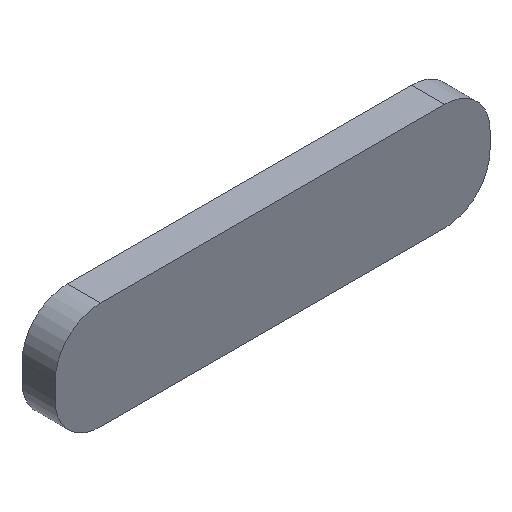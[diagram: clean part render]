
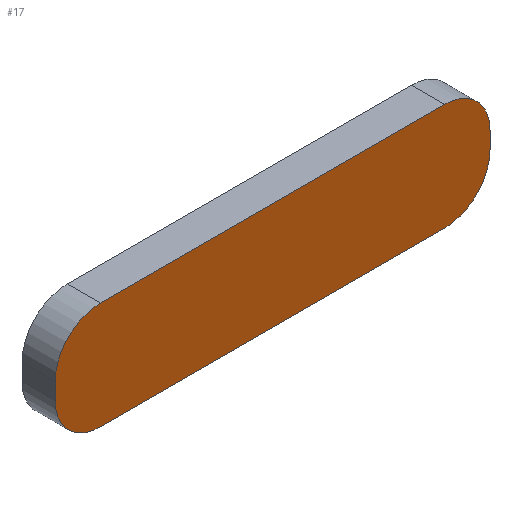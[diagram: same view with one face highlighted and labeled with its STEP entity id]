
A CAD part, isometric view. The second image highlights one B-rep face of the part: STEP entity #17.
In plain terms, the highlighted planar face has unit normal (0, -1, 0).
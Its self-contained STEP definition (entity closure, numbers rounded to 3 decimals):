
#17 = ADVANCED_FACE('',(#18),#32,.F.);
#18 = FACE_BOUND('',#19,.F.);
#19 = EDGE_LOOP('',(#20,#55,#84,#112,#145,#173,#202,#230));
#20 = ORIENTED_EDGE('',*,*,#21,.F.);
#21 = EDGE_CURVE('',#22,#24,#26,.T.);
#22 = VERTEX_POINT('',#23);
#23 = CARTESIAN_POINT('',(13.4,-68.2,0.45));
#24 = VERTEX_POINT('',#25);
#25 = CARTESIAN_POINT('',(13.4,-68.2,1.55));
#26 = SURFACE_CURVE('',#27,(#31,#43),.PCURVE_S1.);
#27 = LINE('',#28,#29);
#28 = CARTESIAN_POINT('',(13.4,-68.2,-2.55));
#29 = VECTOR('',#30,1.);
#30 = DIRECTION('',(0.,0.,1.));
#31 = PCURVE('',#32,#37);
#32 = PLANE('',#33);
#33 = AXIS2_PLACEMENT_3D('',#34,#35,#36);
#34 = CARTESIAN_POINT('',(13.4,-68.2,-2.55));
#35 = DIRECTION('',(0.,1.,0.));
#36 = DIRECTION('',(0.,0.,1.));
#37 = DEFINITIONAL_REPRESENTATION('',(#38),#42);
#38 = LINE('',#39,#40);
#39 = CARTESIAN_POINT('',(0.,0.));
#40 = VECTOR('',#41,1.);
#41 = DIRECTION('',(1.,0.));
#42 = ( GEOMETRIC_REPRESENTATION_CONTEXT(2) 
PARAMETRIC_REPRESENTATION_CONTEXT() REPRESENTATION_CONTEXT('2D SPACE',''
  ) );
#43 = PCURVE('',#44,#49);
#44 = PLANE('',#45);
#45 = AXIS2_PLACEMENT_3D('',#46,#47,#48);
#46 = CARTESIAN_POINT('',(13.4,-68.2,-2.55));
#47 = DIRECTION('',(-1.,0.,0.));
#48 = DIRECTION('',(0.,0.,1.));
#49 = DEFINITIONAL_REPRESENTATION('',(#50),#54);
#50 = LINE('',#51,#52);
#51 = CARTESIAN_POINT('',(0.,0.));
#52 = VECTOR('',#53,1.);
#53 = DIRECTION('',(1.,0.));
#54 = ( GEOMETRIC_REPRESENTATION_CONTEXT(2) 
PARAMETRIC_REPRESENTATION_CONTEXT() REPRESENTATION_CONTEXT('2D SPACE',''
  ) );
#55 = ORIENTED_EDGE('',*,*,#56,.T.);
#56 = EDGE_CURVE('',#22,#57,#59,.T.);
#57 = VERTEX_POINT('',#58);
#58 = CARTESIAN_POINT('',(10.4,-68.2,-2.55));
#59 = SURFACE_CURVE('',#60,(#65,#72),.PCURVE_S1.);
#60 = CIRCLE('',#61,3.);
#61 = AXIS2_PLACEMENT_3D('',#62,#63,#64);
#62 = CARTESIAN_POINT('',(10.4,-68.2,0.45));
#63 = DIRECTION('',(0.,1.,-0.));
#64 = DIRECTION('',(0.,0.,1.));
#65 = PCURVE('',#32,#66);
#66 = DEFINITIONAL_REPRESENTATION('',(#67),#71);
#67 = CIRCLE('',#68,3.);
#68 = AXIS2_PLACEMENT_2D('',#69,#70);
#69 = CARTESIAN_POINT('',(3.,-3.));
#70 = DIRECTION('',(1.,0.));
#71 = ( GEOMETRIC_REPRESENTATION_CONTEXT(2) 
PARAMETRIC_REPRESENTATION_CONTEXT() REPRESENTATION_CONTEXT('2D SPACE',''
  ) );
#72 = PCURVE('',#73,#78);
#73 = CYLINDRICAL_SURFACE('',#74,3.);
#74 = AXIS2_PLACEMENT_3D('',#75,#76,#77);
#75 = CARTESIAN_POINT('',(10.4,-68.2,0.45));
#76 = DIRECTION('',(0.,1.,0.));
#77 = DIRECTION('',(1.,0.,0.));
#78 = DEFINITIONAL_REPRESENTATION('',(#79),#83);
#79 = LINE('',#80,#81);
#80 = CARTESIAN_POINT('',(-1.571,0.));
#81 = VECTOR('',#82,1.);
#82 = DIRECTION('',(1.,0.));
#83 = ( GEOMETRIC_REPRESENTATION_CONTEXT(2) 
PARAMETRIC_REPRESENTATION_CONTEXT() REPRESENTATION_CONTEXT('2D SPACE',''
  ) );
#84 = ORIENTED_EDGE('',*,*,#85,.T.);
#85 = EDGE_CURVE('',#57,#86,#88,.T.);
#86 = VERTEX_POINT('',#87);
#87 = CARTESIAN_POINT('',(-12.4,-68.2,-2.55));
#88 = SURFACE_CURVE('',#89,(#93,#100),.PCURVE_S1.);
#89 = LINE('',#90,#91);
#90 = CARTESIAN_POINT('',(13.4,-68.2,-2.55));
#91 = VECTOR('',#92,1.);
#92 = DIRECTION('',(-1.,0.,0.));
#93 = PCURVE('',#32,#94);
#94 = DEFINITIONAL_REPRESENTATION('',(#95),#99);
#95 = LINE('',#96,#97);
#96 = CARTESIAN_POINT('',(0.,0.));
#97 = VECTOR('',#98,1.);
#98 = DIRECTION('',(0.,-1.));
#99 = ( GEOMETRIC_REPRESENTATION_CONTEXT(2) 
PARAMETRIC_REPRESENTATION_CONTEXT() REPRESENTATION_CONTEXT('2D SPACE',''
  ) );
#100 = PCURVE('',#101,#106);
#101 = PLANE('',#102);
#102 = AXIS2_PLACEMENT_3D('',#103,#104,#105);
#103 = CARTESIAN_POINT('',(13.4,-68.2,-2.55));
#104 = DIRECTION('',(0.,0.,1.));
#105 = DIRECTION('',(0.,1.,0.));
#106 = DEFINITIONAL_REPRESENTATION('',(#107),#111);
#107 = LINE('',#108,#109);
#108 = CARTESIAN_POINT('',(0.,0.));
#109 = VECTOR('',#110,1.);
#110 = DIRECTION('',(0.,1.));
#111 = ( GEOMETRIC_REPRESENTATION_CONTEXT(2) 
PARAMETRIC_REPRESENTATION_CONTEXT() REPRESENTATION_CONTEXT('2D SPACE',''
  ) );
#112 = ORIENTED_EDGE('',*,*,#113,.F.);
#113 = EDGE_CURVE('',#114,#86,#116,.T.);
#114 = VERTEX_POINT('',#115);
#115 = CARTESIAN_POINT('',(-15.4,-68.2,0.45));
#116 = SURFACE_CURVE('',#117,(#122,#133),.PCURVE_S1.);
#117 = CIRCLE('',#118,3.);
#118 = AXIS2_PLACEMENT_3D('',#119,#120,#121);
#119 = CARTESIAN_POINT('',(-12.4,-68.2,0.45));
#120 = DIRECTION('',(0.,-1.,0.));
#121 = DIRECTION('',(0.,0.,1.));
#122 = PCURVE('',#32,#123);
#123 = DEFINITIONAL_REPRESENTATION('',(#124),#132);
#124 = ( BOUNDED_CURVE() B_SPLINE_CURVE(2,(#125,#126,#127,#128,#129,#130
,#131),.UNSPECIFIED.,.T.,.F.) B_SPLINE_CURVE_WITH_KNOTS((1,2,2,2,2,1),(
    -2.094,0.,2.094,4.189,6.283,
8.378),.UNSPECIFIED.) CURVE() GEOMETRIC_REPRESENTATION_ITEM() 
RATIONAL_B_SPLINE_CURVE((1.,0.5,1.,0.5,1.,0.5,1.)) REPRESENTATION_ITEM(
  '') );
#125 = CARTESIAN_POINT('',(6.,-25.8));
#126 = CARTESIAN_POINT('',(6.,-30.996));
#127 = CARTESIAN_POINT('',(1.5,-28.398));
#128 = CARTESIAN_POINT('',(-3.,-25.8));
#129 = CARTESIAN_POINT('',(1.5,-23.202));
#130 = CARTESIAN_POINT('',(6.,-20.604));
#131 = CARTESIAN_POINT('',(6.,-25.8));
#132 = ( GEOMETRIC_REPRESENTATION_CONTEXT(2) 
PARAMETRIC_REPRESENTATION_CONTEXT() REPRESENTATION_CONTEXT('2D SPACE',''
  ) );
#133 = PCURVE('',#134,#139);
#134 = CYLINDRICAL_SURFACE('',#135,3.);
#135 = AXIS2_PLACEMENT_3D('',#136,#137,#138);
#136 = CARTESIAN_POINT('',(-12.4,-68.2,0.45));
#137 = DIRECTION('',(0.,1.,0.));
#138 = DIRECTION('',(-1.,0.,0.));
#139 = DEFINITIONAL_REPRESENTATION('',(#140),#144);
#140 = LINE('',#141,#142);
#141 = CARTESIAN_POINT('',(1.571,-0.));
#142 = VECTOR('',#143,1.);
#143 = DIRECTION('',(-1.,0.));
#144 = ( GEOMETRIC_REPRESENTATION_CONTEXT(2) 
PARAMETRIC_REPRESENTATION_CONTEXT() REPRESENTATION_CONTEXT('2D SPACE',''
  ) );
#145 = ORIENTED_EDGE('',*,*,#146,.T.);
#146 = EDGE_CURVE('',#114,#147,#149,.T.);
#147 = VERTEX_POINT('',#148);
#148 = CARTESIAN_POINT('',(-15.4,-68.2,1.55));
#149 = SURFACE_CURVE('',#150,(#154,#161),.PCURVE_S1.);
#150 = LINE('',#151,#152);
#151 = CARTESIAN_POINT('',(-15.4,-68.2,-2.55));
#152 = VECTOR('',#153,1.);
#153 = DIRECTION('',(0.,0.,1.));
#154 = PCURVE('',#32,#155);
#155 = DEFINITIONAL_REPRESENTATION('',(#156),#160);
#156 = LINE('',#157,#158);
#157 = CARTESIAN_POINT('',(0.,-28.8));
#158 = VECTOR('',#159,1.);
#159 = DIRECTION('',(1.,0.));
#160 = ( GEOMETRIC_REPRESENTATION_CONTEXT(2) 
PARAMETRIC_REPRESENTATION_CONTEXT() REPRESENTATION_CONTEXT('2D SPACE',''
  ) );
#161 = PCURVE('',#162,#167);
#162 = PLANE('',#163);
#163 = AXIS2_PLACEMENT_3D('',#164,#165,#166);
#164 = CARTESIAN_POINT('',(-15.4,-68.2,-2.55));
#165 = DIRECTION('',(-1.,0.,0.));
#166 = DIRECTION('',(0.,0.,1.));
#167 = DEFINITIONAL_REPRESENTATION('',(#168),#172);
#168 = LINE('',#169,#170);
#169 = CARTESIAN_POINT('',(0.,0.));
#170 = VECTOR('',#171,1.);
#171 = DIRECTION('',(1.,0.));
#172 = ( GEOMETRIC_REPRESENTATION_CONTEXT(2) 
PARAMETRIC_REPRESENTATION_CONTEXT() REPRESENTATION_CONTEXT('2D SPACE',''
  ) );
#173 = ORIENTED_EDGE('',*,*,#174,.T.);
#174 = EDGE_CURVE('',#147,#175,#177,.T.);
#175 = VERTEX_POINT('',#176);
#176 = CARTESIAN_POINT('',(-12.4,-68.2,4.55));
#177 = SURFACE_CURVE('',#178,(#183,#190),.PCURVE_S1.);
#178 = CIRCLE('',#179,3.);
#179 = AXIS2_PLACEMENT_3D('',#180,#181,#182);
#180 = CARTESIAN_POINT('',(-12.4,-68.2,1.55));
#181 = DIRECTION('',(0.,1.,-0.));
#182 = DIRECTION('',(0.,0.,1.));
#183 = PCURVE('',#32,#184);
#184 = DEFINITIONAL_REPRESENTATION('',(#185),#189);
#185 = CIRCLE('',#186,3.);
#186 = AXIS2_PLACEMENT_2D('',#187,#188);
#187 = CARTESIAN_POINT('',(4.1,-25.8));
#188 = DIRECTION('',(1.,0.));
#189 = ( GEOMETRIC_REPRESENTATION_CONTEXT(2) 
PARAMETRIC_REPRESENTATION_CONTEXT() REPRESENTATION_CONTEXT('2D SPACE',''
  ) );
#190 = PCURVE('',#191,#196);
#191 = CYLINDRICAL_SURFACE('',#192,3.);
#192 = AXIS2_PLACEMENT_3D('',#193,#194,#195);
#193 = CARTESIAN_POINT('',(-12.4,-68.2,1.55));
#194 = DIRECTION('',(0.,1.,0.));
#195 = DIRECTION('',(-1.,0.,0.));
#196 = DEFINITIONAL_REPRESENTATION('',(#197),#201);
#197 = LINE('',#198,#199);
#198 = CARTESIAN_POINT('',(-4.712,0.));
#199 = VECTOR('',#200,1.);
#200 = DIRECTION('',(1.,0.));
#201 = ( GEOMETRIC_REPRESENTATION_CONTEXT(2) 
PARAMETRIC_REPRESENTATION_CONTEXT() REPRESENTATION_CONTEXT('2D SPACE',''
  ) );
#202 = ORIENTED_EDGE('',*,*,#203,.F.);
#203 = EDGE_CURVE('',#204,#175,#206,.T.);
#204 = VERTEX_POINT('',#205);
#205 = CARTESIAN_POINT('',(10.4,-68.2,4.55));
#206 = SURFACE_CURVE('',#207,(#211,#218),.PCURVE_S1.);
#207 = LINE('',#208,#209);
#208 = CARTESIAN_POINT('',(13.4,-68.2,4.55));
#209 = VECTOR('',#210,1.);
#210 = DIRECTION('',(-1.,0.,0.));
#211 = PCURVE('',#32,#212);
#212 = DEFINITIONAL_REPRESENTATION('',(#213),#217);
#213 = LINE('',#214,#215);
#214 = CARTESIAN_POINT('',(7.1,0.));
#215 = VECTOR('',#216,1.);
#216 = DIRECTION('',(0.,-1.));
#217 = ( GEOMETRIC_REPRESENTATION_CONTEXT(2) 
PARAMETRIC_REPRESENTATION_CONTEXT() REPRESENTATION_CONTEXT('2D SPACE',''
  ) );
#218 = PCURVE('',#219,#224);
#219 = PLANE('',#220);
#220 = AXIS2_PLACEMENT_3D('',#221,#222,#223);
#221 = CARTESIAN_POINT('',(13.4,-68.2,4.55));
#222 = DIRECTION('',(0.,0.,1.));
#223 = DIRECTION('',(0.,1.,0.));
#224 = DEFINITIONAL_REPRESENTATION('',(#225),#229);
#225 = LINE('',#226,#227);
#226 = CARTESIAN_POINT('',(0.,0.));
#227 = VECTOR('',#228,1.);
#228 = DIRECTION('',(0.,1.));
#229 = ( GEOMETRIC_REPRESENTATION_CONTEXT(2) 
PARAMETRIC_REPRESENTATION_CONTEXT() REPRESENTATION_CONTEXT('2D SPACE',''
  ) );
#230 = ORIENTED_EDGE('',*,*,#231,.F.);
#231 = EDGE_CURVE('',#24,#204,#232,.T.);
#232 = SURFACE_CURVE('',#233,(#238,#249),.PCURVE_S1.);
#233 = CIRCLE('',#234,3.);
#234 = AXIS2_PLACEMENT_3D('',#235,#236,#237);
#235 = CARTESIAN_POINT('',(10.4,-68.2,1.55));
#236 = DIRECTION('',(0.,-1.,0.));
#237 = DIRECTION('',(0.,0.,1.));
#238 = PCURVE('',#32,#239);
#239 = DEFINITIONAL_REPRESENTATION('',(#240),#248);
#240 = ( BOUNDED_CURVE() B_SPLINE_CURVE(2,(#241,#242,#243,#244,#245,#246
,#247),.UNSPECIFIED.,.T.,.F.) B_SPLINE_CURVE_WITH_KNOTS((1,2,2,2,2,1),(
    -2.094,0.,2.094,4.189,6.283,
8.378),.UNSPECIFIED.) CURVE() GEOMETRIC_REPRESENTATION_ITEM() 
RATIONAL_B_SPLINE_CURVE((1.,0.5,1.,0.5,1.,0.5,1.)) REPRESENTATION_ITEM(
  '') );
#241 = CARTESIAN_POINT('',(7.1,-3.));
#242 = CARTESIAN_POINT('',(7.1,-8.196));
#243 = CARTESIAN_POINT('',(2.6,-5.598));
#244 = CARTESIAN_POINT('',(-1.9,-3.));
#245 = CARTESIAN_POINT('',(2.6,-0.402));
#246 = CARTESIAN_POINT('',(7.1,2.196));
#247 = CARTESIAN_POINT('',(7.1,-3.));
#248 = ( GEOMETRIC_REPRESENTATION_CONTEXT(2) 
PARAMETRIC_REPRESENTATION_CONTEXT() REPRESENTATION_CONTEXT('2D SPACE',''
  ) );
#249 = PCURVE('',#250,#255);
#250 = CYLINDRICAL_SURFACE('',#251,3.);
#251 = AXIS2_PLACEMENT_3D('',#252,#253,#254);
#252 = CARTESIAN_POINT('',(10.4,-68.2,1.55));
#253 = DIRECTION('',(0.,1.,0.));
#254 = DIRECTION('',(1.,0.,0.));
#255 = DEFINITIONAL_REPRESENTATION('',(#256),#260);
#256 = LINE('',#257,#258);
#257 = CARTESIAN_POINT('',(4.712,-0.));
#258 = VECTOR('',#259,1.);
#259 = DIRECTION('',(-1.,0.));
#260 = ( GEOMETRIC_REPRESENTATION_CONTEXT(2) 
PARAMETRIC_REPRESENTATION_CONTEXT() REPRESENTATION_CONTEXT('2D SPACE',''
  ) );
